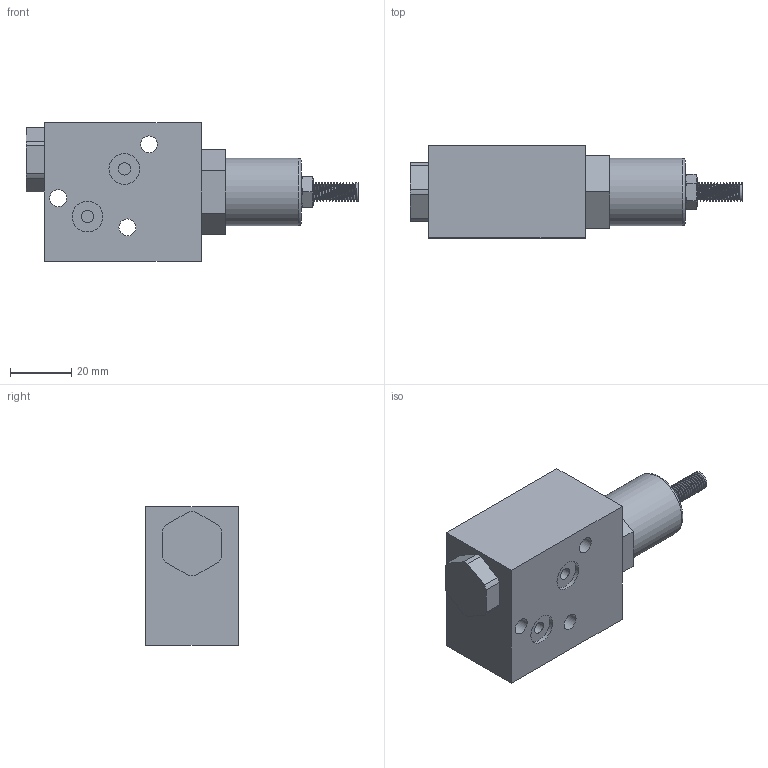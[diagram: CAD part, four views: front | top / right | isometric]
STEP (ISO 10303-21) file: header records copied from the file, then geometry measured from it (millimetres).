
FILE_DESCRIPTION(/* description */ (''),/* implementation_level */ '2;1');
FILE_NAME(/* name */ 'SV-A.stp',/* time_stamp */ '2016-08-18T09:29:03+08:00',/* author */ (''),/* organization */ (''),/* preprocessor_version */ 'ST-DEVELOPER v14',/* originating_system */ 'SIEMENS PLM Software NX 8.0',/* authorisation */ '');
FILE_SCHEMA (('CONFIG_CONTROL_DESIGN'));
Length unit declared in the file: millimetre
Products named in the file (1): SV-A_stp
Bounding box: 108 x 30 x 45 mm (x, y, z)
Volume: 80469.6 mm3; surface area: 19274.8 mm2
Topology: 5 solids, 5 shells, 66 faces, 144 edges, 96 vertices
Faces by surface type: plane 41, cylinder 20, bspline 2, revolution 2, torus 1
Full cylindrical faces by diameter (mm): 4 x2, 5.5 x3, 6 x1, 10 x2, 13.15 x1, 22 x3
Entity records: 6940 total; most frequent: CARTESIAN_POINT 5474, DIRECTION 275, ORIENTED_EDGE 252, EDGE_CURVE 126, AXIS2_PLACEMENT_3D 105, EDGE_LOOP 97, VERTEX_POINT 93, ADVANCED_FACE 66
